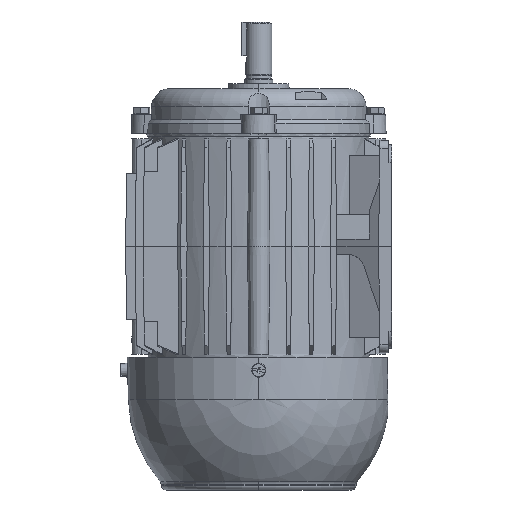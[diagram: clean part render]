
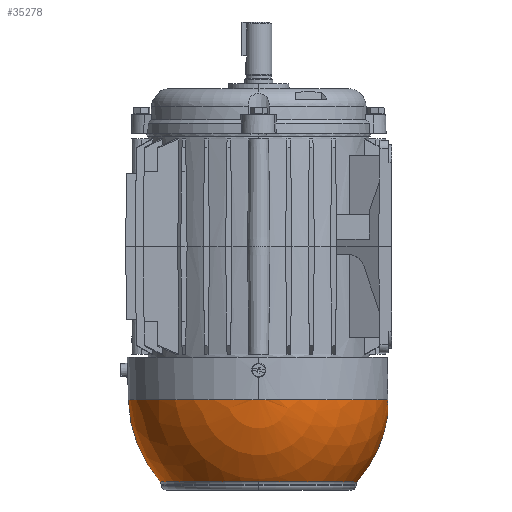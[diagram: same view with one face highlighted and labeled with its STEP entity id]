
A CAD part, left-side view. The second image highlights one B-rep face of the part: STEP entity #35278.
In plain terms, the highlighted spherical face has radius 69.676 mm.
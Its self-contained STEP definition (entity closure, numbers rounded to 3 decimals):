
#273 = CARTESIAN_POINT ( 'NONE',  ( 0., 0., -125.682 ) ) ;
#274 = DIRECTION ( 'NONE',  ( 0., 0., -1. ) ) ;
#275 = DIRECTION ( 'NONE',  ( -1., 0., 0. ) ) ;
#1368 = AXIS2_PLACEMENT_3D ( 'NONE', #38678, #38676, #38687 ) ;
#2490 = CARTESIAN_POINT ( 'NONE',  ( 0., -69., -89.684 ) ) ;
#2493 = CARTESIAN_POINT ( 'NONE',  ( -52.611, 0., -125.682 ) ) ;
#6987 = EDGE_LOOP ( 'NONE', ( #19067, #19066, #19065, #19064, #19063, #19062, #19061 ) ) ;
#7640 = CARTESIAN_POINT ( 'NONE',  ( 0., 0., -81.824 ) ) ;
#7642 = DIRECTION ( 'NONE',  ( 0., 0., -1. ) ) ;
#7644 = DIRECTION ( 'NONE',  ( -1., 0., 0. ) ) ;
#8181 = CARTESIAN_POINT ( 'NONE',  ( 0., -69., -80. ) ) ;
#8182 = DIRECTION ( 'NONE',  ( 0., 1., 0. ) ) ;
#8184 = DIRECTION ( 'NONE',  ( -1., 0., 0. ) ) ;
#19061 = ORIENTED_EDGE ( 'NONE', *, *, #32152, .F. ) ;
#19062 = ORIENTED_EDGE ( 'NONE', *, *, #40106, .F. ) ;
#19063 = ORIENTED_EDGE ( 'NONE', *, *, #32691, .T. ) ;
#19064 = ORIENTED_EDGE ( 'NONE', *, *, #31176, .T. ) ;
#19065 = ORIENTED_EDGE ( 'NONE', *, *, #31993, .T. ) ;
#19066 = ORIENTED_EDGE ( 'NONE', *, *, #31370, .T. ) ;
#19067 = ORIENTED_EDGE ( 'NONE', *, *, #32614, .F. ) ;
#20289 = VERTEX_POINT ( 'NONE', #2493 ) ;
#20305 = VERTEX_POINT ( 'NONE', #2490 ) ;
#22852 = VERTEX_POINT ( 'NONE', #34493 ) ;
#24441 = SPHERICAL_SURFACE ( 'NONE', #1368, 69.676 ) ;
#24447 = FACE_OUTER_BOUND ( 'NONE', #6987, .T. ) ;
#26692 = CIRCLE ( 'NONE', #28561, 52.611 ) ;
#28561 = AXIS2_PLACEMENT_3D ( 'NONE', #273, #274, #275 ) ;
#30346 = CARTESIAN_POINT ( 'NONE',  ( 0., 0., -81.824 ) ) ;
#30347 = DIRECTION ( 'NONE',  ( 0., 0., -1. ) ) ;
#30348 = DIRECTION ( 'NONE',  ( -1., 0., 0. ) ) ;
#30572 = CARTESIAN_POINT ( 'NONE',  ( 0., 0., -125.682 ) ) ;
#30573 = DIRECTION ( 'NONE',  ( 0., 0., -1. ) ) ;
#30574 = DIRECTION ( 'NONE',  ( -1., 0., 0. ) ) ;
#31176 = EDGE_CURVE ( 'NONE', #42526, #42398, #33117, .T. ) ;
#31370 = EDGE_CURVE ( 'NONE', #20305, #22852, #33202, .T. ) ;
#31993 = EDGE_CURVE ( 'NONE', #22852, #42526, #33419, .T. ) ;
#32152 = EDGE_CURVE ( 'NONE', #42392, #20289, #33494, .T. ) ;
#32614 = EDGE_CURVE ( 'NONE', #20305, #42392, #33688, .T. ) ;
#32691 = EDGE_CURVE ( 'NONE', #42398, #42249, #33741, .T. ) ;
#33117 = CIRCLE ( 'NONE', #46830, 69.652 ) ;
#33202 = CIRCLE ( 'NONE', #47138, 9.684 ) ;
#33419 = CIRCLE ( 'NONE', #47097, 69.652 ) ;
#33494 = CIRCLE ( 'NONE', #47208, 52.611 ) ;
#33688 = CIRCLE ( 'NONE', #47088, 69.676 ) ;
#33741 = CIRCLE ( 'NONE', #47337, 69.676 ) ;
#34493 = CARTESIAN_POINT ( 'NONE',  ( -9.51, -69., -81.824 ) ) ;
#35278 = ADVANCED_FACE ( 'NONE', ( #24447 ), #24441, .T. ) ;
#38676 = DIRECTION ( 'NONE',  ( 1., 0., 0. ) ) ;
#38678 = CARTESIAN_POINT ( 'NONE',  ( 0., 0., -80. ) ) ;
#38687 = DIRECTION ( 'NONE',  ( 0., 1., 0. ) ) ;
#40106 = EDGE_CURVE ( 'NONE', #20289, #42249, #26692, .T. ) ;
#42249 = VERTEX_POINT ( 'NONE', #49639 ) ;
#42392 = VERTEX_POINT ( 'NONE', #49681 ) ;
#42398 = VERTEX_POINT ( 'NONE', #49676 ) ;
#42526 = VERTEX_POINT ( 'NONE', #49727 ) ;
#43277 = CARTESIAN_POINT ( 'NONE',  ( 0., 0., -80. ) ) ;
#43278 = DIRECTION ( 'NONE',  ( 1., 0., 0. ) ) ;
#43279 = DIRECTION ( 'NONE',  ( 0., 1., 0. ) ) ;
#43402 = CARTESIAN_POINT ( 'NONE',  ( 0., 0., -80. ) ) ;
#43403 = DIRECTION ( 'NONE',  ( -1., 0., 0. ) ) ;
#43404 = DIRECTION ( 'NONE',  ( 0., 0., 1. ) ) ;
#46830 = AXIS2_PLACEMENT_3D ( 'NONE', #7640, #7642, #7644 ) ;
#47088 = AXIS2_PLACEMENT_3D ( 'NONE', #43277, #43278, #43279 ) ;
#47097 = AXIS2_PLACEMENT_3D ( 'NONE', #30346, #30347, #30348 ) ;
#47138 = AXIS2_PLACEMENT_3D ( 'NONE', #8181, #8182, #8184 ) ;
#47208 = AXIS2_PLACEMENT_3D ( 'NONE', #30572, #30573, #30574 ) ;
#47337 = AXIS2_PLACEMENT_3D ( 'NONE', #43402, #43403, #43404 ) ;
#49639 = CARTESIAN_POINT ( 'NONE',  ( 0., 52.611, -125.682 ) ) ;
#49676 = CARTESIAN_POINT ( 'NONE',  ( 0., 69.652, -81.824 ) ) ;
#49681 = CARTESIAN_POINT ( 'NONE',  ( 0., -52.611, -125.682 ) ) ;
#49727 = CARTESIAN_POINT ( 'NONE',  ( -69.652, 0., -81.824 ) ) ;
